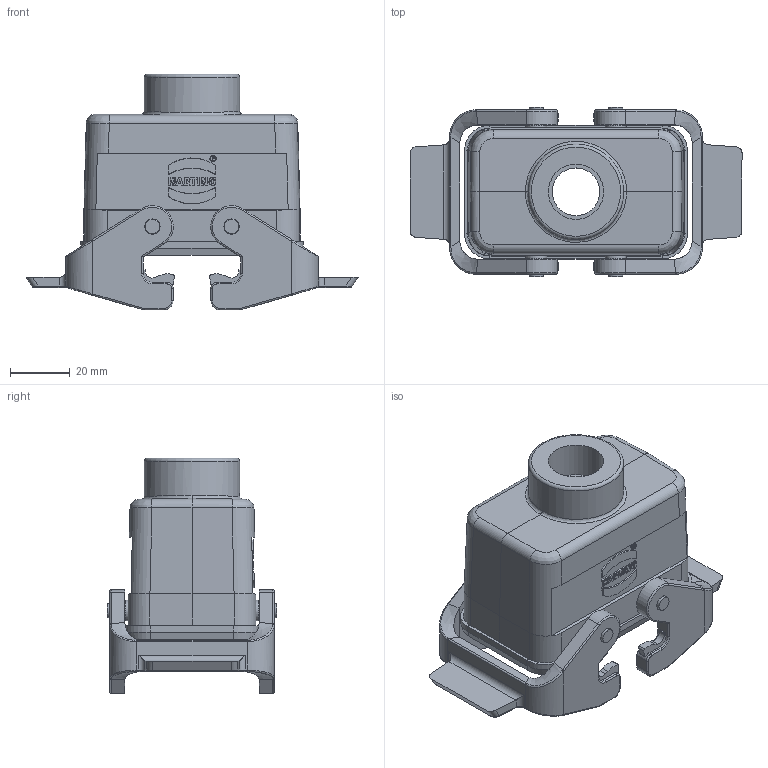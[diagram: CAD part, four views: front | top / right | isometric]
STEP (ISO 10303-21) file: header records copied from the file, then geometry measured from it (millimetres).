
FILE_DESCRIPTION(/* description */ (''),/* implementation_level */ '2;1');
FILE_NAME(/* name */ '100578654ugm000_d.stp',/* time_stamp */ '2022-03-11T20:19:11+01:00',/* author */ (''),/* organization */ (''),/* preprocessor_version */ 'ST-DEVELOPER v16.7',/* originating_system */ 'SIEMENS PLM Software NX 1911',/* authorisation */ '');
FILE_SCHEMA (('AUTOMOTIVE_DESIGN { 1 0 10303 214 3 1 1 1 }'));
Length unit declared in the file: millimetre
Products named in the file (1): 100578654ugm000_d
Bounding box: 111.54 x 57 x 79.2 mm (x, y, z)
Volume: 72627.9 mm3; surface area: 41283.3 mm2
Topology: 3 solids, 3 shells, 579 faces, 1455 edges, 919 vertices
Faces by surface type: plane 306, cylinder 183, bspline 54, torus 26, cone 10
Full cylindrical faces by diameter (mm): 3 x4, 4.8 x4, 5.1 x4, 5.13 x8, 7 x4, 16 x1, 18.6 x1, 32 x1
Entity records: 22713 total; most frequent: CARTESIAN_POINT 5979, ORIENTED_EDGE 2810, DIRECTION 2689, EDGE_CURVE 1405, AXIS2_PLACEMENT_3D 920, VERTEX_POINT 902, LINE 849, VECTOR 849
